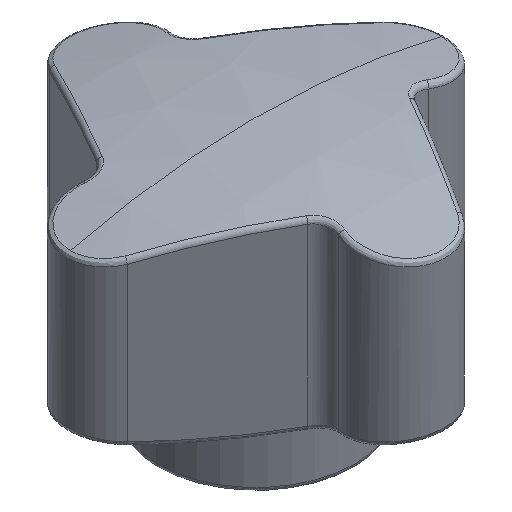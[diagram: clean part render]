
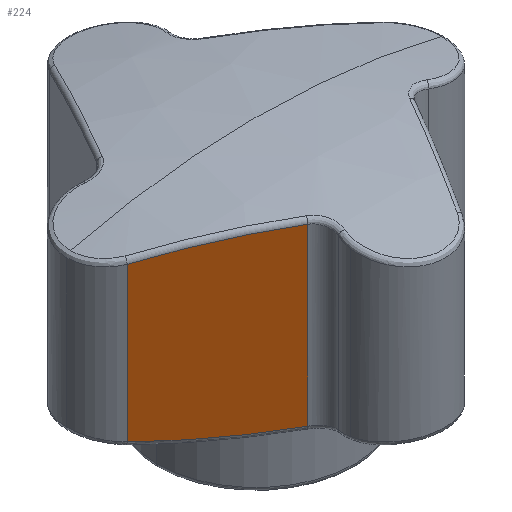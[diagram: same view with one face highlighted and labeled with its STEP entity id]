
A CAD part, isometric view. The second image highlights one B-rep face of the part: STEP entity #224.
In plain terms, the highlighted planar face has unit normal (-0.5, -0.866, 0).
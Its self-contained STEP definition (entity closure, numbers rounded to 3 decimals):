
#73 = VERTEX_POINT ( 'NONE', #1669 ) ;
#111 = EDGE_LOOP ( 'NONE', ( #199, #183, #182, #217 ) ) ;
#160 = VERTEX_POINT ( 'NONE', #3497 ) ;
#163 = VERTEX_POINT ( 'NONE', #3457 ) ;
#182 = ORIENTED_EDGE ( 'NONE', *, *, #223, .T. ) ;
#183 = ORIENTED_EDGE ( 'NONE', *, *, #200, .T. ) ;
#193 = EDGE_CURVE ( 'NONE', #163, #225, #3584, .T. ) ;
#199 = ORIENTED_EDGE ( 'NONE', *, *, #201, .F. ) ;
#200 = EDGE_CURVE ( 'NONE', #73, #160, #3548, .T. ) ;
#201 = EDGE_CURVE ( 'NONE', #73, #225, #3634, .T. ) ;
#217 = ORIENTED_EDGE ( 'NONE', *, *, #193, .T. ) ;
#223 = EDGE_CURVE ( 'NONE', #160, #163, #1866, .T. ) ;
#224 = ADVANCED_FACE ( 'NONE', ( #1829 ), #1828, .F. ) ;
#225 = VERTEX_POINT ( 'NONE', #1861 ) ;
#1669 = CARTESIAN_POINT ( 'NONE',  ( -5.671, -11.148, 25.602 ) ) ;
#1822 = CARTESIAN_POINT ( 'NONE',  ( -17.768, -4.164, 27. ) ) ;
#1828 = PLANE ( 'NONE',  #1862 ) ;
#1829 = FACE_OUTER_BOUND ( 'NONE', #111, .T. ) ;
#1838 = DIRECTION ( 'NONE',  ( 0.5, 0.866, 0. ) ) ;
#1860 = DIRECTION ( 'NONE',  ( -0.866, 0.5, 0. ) ) ;
#1861 = CARTESIAN_POINT ( 'NONE',  ( -5.671, -11.148, 7.098 ) ) ;
#1862 = AXIS2_PLACEMENT_3D ( 'NONE', #1822, #1838, #1860 ) ;
#1863 = DIRECTION ( 'NONE',  ( 0., 0., -1. ) ) ;
#1864 = VECTOR ( 'NONE', #1863, 1000. ) ;
#1865 = CARTESIAN_POINT ( 'NONE',  ( -17.768, -4.164, 27. ) ) ;
#1866 = LINE ( 'NONE', #1865, #1864 ) ;
#3457 = CARTESIAN_POINT ( 'NONE',  ( -17.768, -4.164, 8.211 ) ) ;
#3497 = CARTESIAN_POINT ( 'NONE',  ( -17.768, -4.164, 24.489 ) ) ;
#3547 = CARTESIAN_POINT ( 'NONE',  ( -6.245, -10.817, 86.95 ) ) ;
#3548 = CIRCLE ( 'NONE', #3573, 79.855 ) ;
#3550 = CARTESIAN_POINT ( 'NONE',  ( -6.245, -10.817, -54.25 ) ) ;
#3573 = AXIS2_PLACEMENT_3D ( 'NONE', #3550, #3635, #3633 ) ;
#3580 = DIRECTION ( 'NONE',  ( 0., 0., -1. ) ) ;
#3581 = CARTESIAN_POINT ( 'NONE',  ( -5.671, -11.148, 27. ) ) ;
#3582 = DIRECTION ( 'NONE',  ( -0.866, 0.5, 0. ) ) ;
#3583 = AXIS2_PLACEMENT_3D ( 'NONE', #3547, #3585, #3582 ) ;
#3584 = CIRCLE ( 'NONE', #3583, 79.855 ) ;
#3585 = DIRECTION ( 'NONE',  ( -0.5, -0.866, 0. ) ) ;
#3607 = VECTOR ( 'NONE', #3580, 1000. ) ;
#3633 = DIRECTION ( 'NONE',  ( -0.866, 0.5, 0. ) ) ;
#3634 = LINE ( 'NONE', #3581, #3607 ) ;
#3635 = DIRECTION ( 'NONE',  ( -0.5, -0.866, 0. ) ) ;
